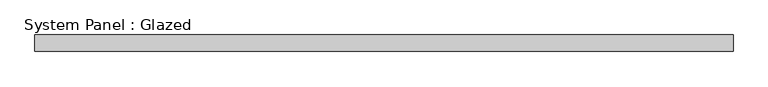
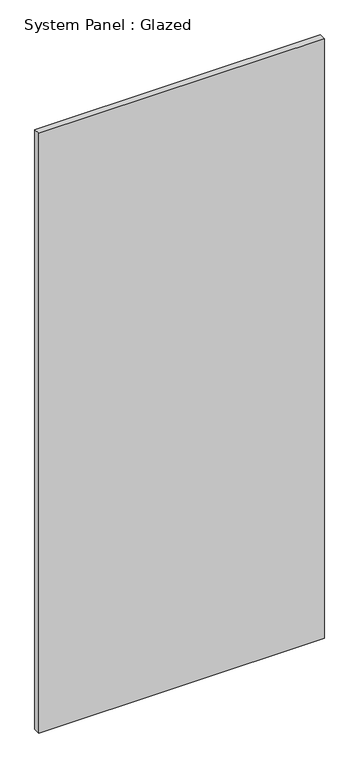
"""IFC4 building model written with IfcOpenShell, lengths in millimetres: plate geometry, System Panel : Glazed."""

from ifc_helpers import new_model, si_unit, origin, origin_with_axes, place, context, project, spatial, polyline, outline, extrude, source, transform, mapped, element, save


def system_panel_glazed_53e30309(model_context):
    return source(origin(), model_context, "Body", "SweptSolid", [
        extrude(outline(polyline([(535.0833332, 19.05), (-535.0833332, 19.05), (-535.0833332, 44.45), (535.0833332, 44.45), (535.0833332, 19.05)])), origin_with_axes(), (0.0, 0.0, 1.0), 2374.9),
    ])


if __name__ == "__main__":
    model = new_model("IFC4")
    model_context = context("Model", 3, world=origin())
    ifc_project = project(units=[si_unit("LENGTHUNIT", "METRE", prefix="MILLI")], contexts=[model_context])
    site = spatial("IfcSite", under=ifc_project)
    building = spatial("IfcBuilding", under=site)
    placement = place(None, origin())
    system_panel_glazed_shape = system_panel_glazed_53e30309(model_context)
    element("IfcPlate", 1, ObjectType="System Panel : Glazed", at=placement, inside=building, context=model_context, shape_type="MappedRepresentation", body=[
        mapped(system_panel_glazed_shape, transform((0.0, 0.0, 0.0), x_axis=(1.0, 0.0, 0.0), y_axis=(0.0, 1.0, 0.0), z_axis=(0.0, 0.0, 1.0))),
    ])
    save(model, "model.ifc")
